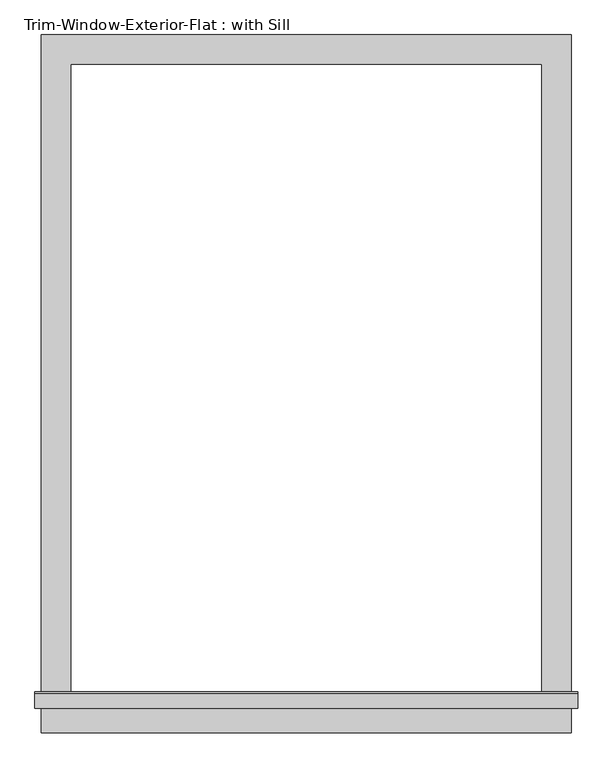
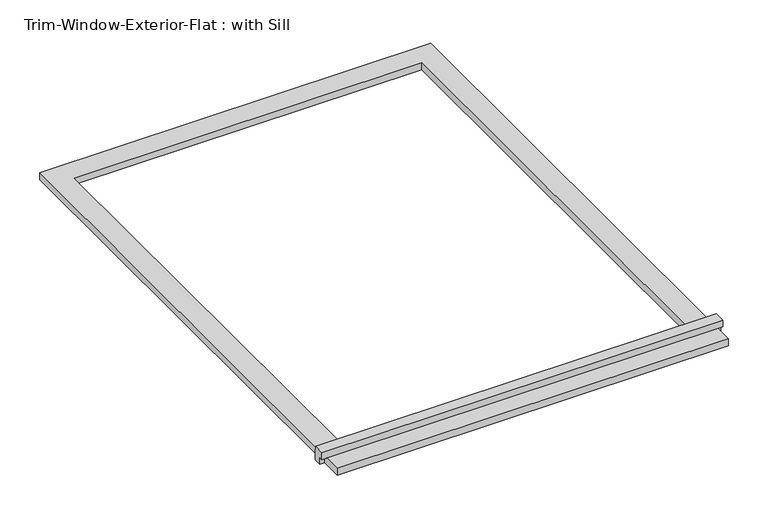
"""IFC4 building model written with IfcOpenShell, lengths in millimetres: proxy geometry, Trim-Window-Exterior-Flat : with Sill."""

from ifc_helpers import new_model, si_unit, frame, origin, origin_with_axes, place, context, project, spatial, polyline, outline, extrude, source, transform, mapped, element, save


def trim_window_exterior_flat_with_sill_cdc255b3(model_context):
    return source(origin(), model_context, "Body", "SweptSolid", [
        extrude(outline(polyline([(514.65, -1242.1823709), (514.65, -1299.3323709), (-514.65, -1299.3323709), (-514.65, -1242.1823709), (514.65, -1242.1823709)])), origin_with_axes(), (0.0, 0.0, 1.0), 19.05),
        extrude(outline(polyline([(-1251.75, 38.1), (-1222.4580645, 38.1), (-1220.0, 19.05), (-1220.0, 0.0), (-1242.1823709, 0.0), (-1242.1823709, 19.05), (-1251.75, 19.05), (-1251.75, 38.1)])), frame((-527.35, 0.0, 0.0), z_axis=(1.0, 0.0, 0.0), x_axis=(0.0, 1.0, 0.0)), (0.0, 0.0, 1.0), 1054.7),
        extrude(outline(polyline([(-514.65, 57.15), (514.65, 57.15), (514.65, -1220.0), (457.5, -1220.0), (457.5, 0.0), (-457.5, 0.0), (-457.5, -1220.0), (-514.65, -1220.0), (-514.65, 57.15)])), origin_with_axes(), (0.0, 0.0, 1.0), 19.05),
    ])


if __name__ == "__main__":
    model = new_model("IFC4")
    model_context = context("Model", 3, world=origin())
    ifc_project = project(units=[si_unit("LENGTHUNIT", "METRE", prefix="MILLI")], contexts=[model_context])
    site = spatial("IfcSite", under=ifc_project)
    building = spatial("IfcBuilding", under=site)
    placement = place(None, origin())
    trim_window_exterior_flat_with_sill_shape = trim_window_exterior_flat_with_sill_cdc255b3(model_context)
    element("IfcBuildingElementProxy", 1, Name="Trim-Window-Exterior-Flat : with Sill", ObjectType="Trim-Window-Exterior-Flat : with Sill", at=placement, inside=building, context=model_context, shape_type="MappedRepresentation", body=[
        mapped(trim_window_exterior_flat_with_sill_shape, transform((0.0, 0.0, 0.0), x_axis=(1.0, 0.0, 0.0), y_axis=(0.0, 1.0, 0.0), z_axis=(0.0, 0.0, 1.0))),
    ])
    save(model, "model.ifc")
